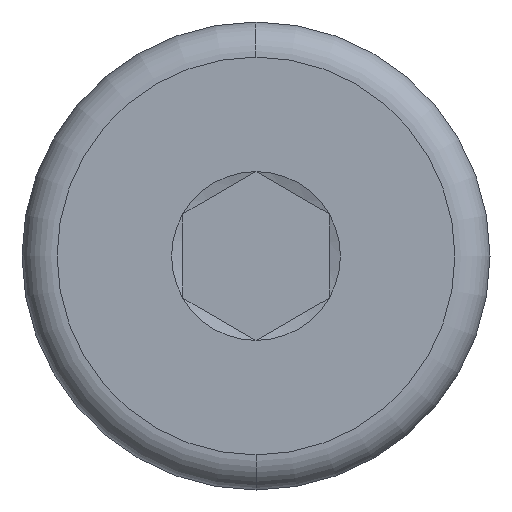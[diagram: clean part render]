
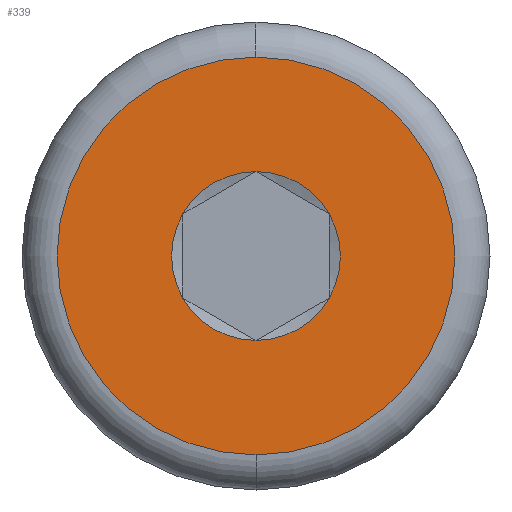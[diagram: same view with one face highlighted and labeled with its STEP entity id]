
A CAD part, left-side view. The second image highlights one B-rep face of the part: STEP entity #339.
In plain terms, the highlighted planar face has unit normal (-1, 0, 0).
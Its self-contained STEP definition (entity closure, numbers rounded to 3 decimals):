
#13 = VERTEX_POINT ( 'NONE', #189 ) ;
#15 = EDGE_CURVE ( 'NONE', #324, #277, #452, .T. ) ;
#46 = DIRECTION ( 'NONE',  ( 0., 0., -1. ) ) ;
#63 = DIRECTION ( 'NONE',  ( -1., 0., 0. ) ) ;
#70 = EDGE_CURVE ( 'NONE', #13, #597, #550, .T. ) ;
#74 = CARTESIAN_POINT ( 'NONE',  ( 0., 0., -1.443 ) ) ;
#90 = EDGE_CURVE ( 'NONE', #378, #101, #668, .T. ) ;
#101 = VERTEX_POINT ( 'NONE', #244 ) ;
#112 = ORIENTED_EDGE ( 'NONE', *, *, #456, .T. ) ;
#131 = DIRECTION ( 'NONE',  ( 1., 0., 0. ) ) ;
#148 = AXIS2_PLACEMENT_3D ( 'NONE', #373, #63, #222 ) ;
#150 = CARTESIAN_POINT ( 'NONE',  ( 0., 0., 3.4 ) ) ;
#169 = CIRCLE ( 'NONE', #558, 1.443 ) ;
#172 = EDGE_LOOP ( 'NONE', ( #386, #584, #432, #112, #389, #358 ) ) ;
#189 = CARTESIAN_POINT ( 'NONE',  ( 0., -1.25, 0.722 ) ) ;
#194 = CARTESIAN_POINT ( 'NONE',  ( 0., 0., 0. ) ) ;
#195 = EDGE_CURVE ( 'NONE', #367, #13, #248, .T. ) ;
#205 = DIRECTION ( 'NONE',  ( 0., 0., -1. ) ) ;
#215 = AXIS2_PLACEMENT_3D ( 'NONE', #288, #561, #298 ) ;
#219 = CIRCLE ( 'NONE', #492, 1.443 ) ;
#222 = DIRECTION ( 'NONE',  ( 0., 0., 1. ) ) ;
#226 = ORIENTED_EDGE ( 'NONE', *, *, #15, .F. ) ;
#236 = CARTESIAN_POINT ( 'NONE',  ( 0., 0., 0. ) ) ;
#237 = DIRECTION ( 'NONE',  ( 1., 0., 0. ) ) ;
#244 = CARTESIAN_POINT ( 'NONE',  ( 0., 1.25, 0.722 ) ) ;
#245 = EDGE_CURVE ( 'NONE', #277, #324, #614, .T. ) ;
#248 = CIRCLE ( 'NONE', #380, 1.443 ) ;
#276 = CARTESIAN_POINT ( 'NONE',  ( 0., 0., 1.443 ) ) ;
#277 = VERTEX_POINT ( 'NONE', #150 ) ;
#279 = EDGE_CURVE ( 'NONE', #101, #367, #349, .T. ) ;
#288 = CARTESIAN_POINT ( 'NONE',  ( 0., 0., 0. ) ) ;
#298 = DIRECTION ( 'NONE',  ( 0., 0., -1. ) ) ;
#306 = DIRECTION ( 'NONE',  ( 0., 0., -1. ) ) ;
#312 = DIRECTION ( 'NONE',  ( 0., 0., -1. ) ) ;
#314 = AXIS2_PLACEMENT_3D ( 'NONE', #405, #518, #306 ) ;
#323 = FACE_BOUND ( 'NONE', #172, .T. ) ;
#324 = VERTEX_POINT ( 'NONE', #582 ) ;
#329 = CARTESIAN_POINT ( 'NONE',  ( 0., 0., 0. ) ) ;
#336 = CARTESIAN_POINT ( 'NONE',  ( 0., 1.25, -0.722 ) ) ;
#339 = ADVANCED_FACE ( 'NONE', ( #323, #477 ), #648, .T. ) ;
#340 = DIRECTION ( 'NONE',  ( 1., 0., 0. ) ) ;
#347 = AXIS2_PLACEMENT_3D ( 'NONE', #446, #340, #564 ) ;
#349 = CIRCLE ( 'NONE', #593, 1.443 ) ;
#351 = CARTESIAN_POINT ( 'NONE',  ( 0., -1.25, -0.722 ) ) ;
#358 = ORIENTED_EDGE ( 'NONE', *, *, #90, .T. ) ;
#367 = VERTEX_POINT ( 'NONE', #276 ) ;
#371 = VERTEX_POINT ( 'NONE', #74 ) ;
#373 = CARTESIAN_POINT ( 'NONE',  ( 0., 0., 0. ) ) ;
#378 = VERTEX_POINT ( 'NONE', #336 ) ;
#380 = AXIS2_PLACEMENT_3D ( 'NONE', #575, #474, #205 ) ;
#386 = ORIENTED_EDGE ( 'NONE', *, *, #279, .T. ) ;
#389 = ORIENTED_EDGE ( 'NONE', *, *, #611, .T. ) ;
#405 = CARTESIAN_POINT ( 'NONE',  ( 0., 0., 0. ) ) ;
#419 = CARTESIAN_POINT ( 'NONE',  ( 0., 0., 0. ) ) ;
#432 = ORIENTED_EDGE ( 'NONE', *, *, #70, .T. ) ;
#441 = DIRECTION ( 'NONE',  ( 1., 0., 0. ) ) ;
#446 = CARTESIAN_POINT ( 'NONE',  ( 0., 0., 0. ) ) ;
#452 = CIRCLE ( 'NONE', #215, 3.4 ) ;
#456 = EDGE_CURVE ( 'NONE', #597, #371, #169, .T. ) ;
#462 = EDGE_LOOP ( 'NONE', ( #226, #532 ) ) ;
#474 = DIRECTION ( 'NONE',  ( 1., 0., 0. ) ) ;
#477 = FACE_OUTER_BOUND ( 'NONE', #462, .T. ) ;
#492 = AXIS2_PLACEMENT_3D ( 'NONE', #236, #441, #312 ) ;
#518 = DIRECTION ( 'NONE',  ( 1., 0., 0. ) ) ;
#532 = ORIENTED_EDGE ( 'NONE', *, *, #245, .F. ) ;
#550 = CIRCLE ( 'NONE', #581, 1.443 ) ;
#558 = AXIS2_PLACEMENT_3D ( 'NONE', #329, #131, #658 ) ;
#561 = DIRECTION ( 'NONE',  ( 1., 0., 0. ) ) ;
#564 = DIRECTION ( 'NONE',  ( 0., 0., -1. ) ) ;
#575 = CARTESIAN_POINT ( 'NONE',  ( 0., 0., 0. ) ) ;
#581 = AXIS2_PLACEMENT_3D ( 'NONE', #194, #237, #603 ) ;
#582 = CARTESIAN_POINT ( 'NONE',  ( 0., 0., -3.4 ) ) ;
#584 = ORIENTED_EDGE ( 'NONE', *, *, #195, .T. ) ;
#593 = AXIS2_PLACEMENT_3D ( 'NONE', #419, #675, #46 ) ;
#597 = VERTEX_POINT ( 'NONE', #351 ) ;
#603 = DIRECTION ( 'NONE',  ( 0., 0., -1. ) ) ;
#611 = EDGE_CURVE ( 'NONE', #371, #378, #219, .T. ) ;
#614 = CIRCLE ( 'NONE', #314, 3.4 ) ;
#648 = PLANE ( 'NONE',  #148 ) ;
#658 = DIRECTION ( 'NONE',  ( 0., 0., -1. ) ) ;
#668 = CIRCLE ( 'NONE', #347, 1.443 ) ;
#675 = DIRECTION ( 'NONE',  ( 1., 0., 0. ) ) ;
